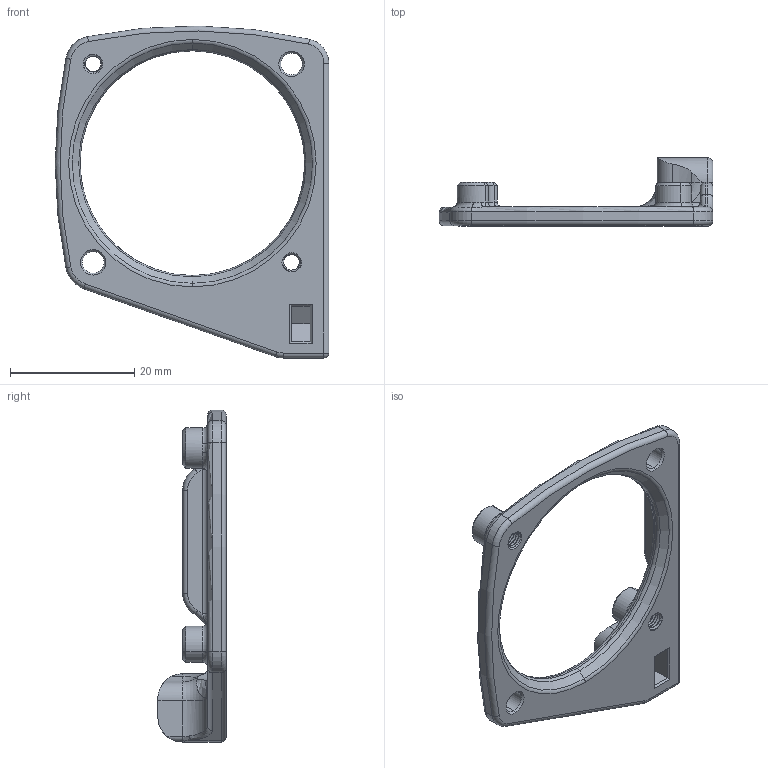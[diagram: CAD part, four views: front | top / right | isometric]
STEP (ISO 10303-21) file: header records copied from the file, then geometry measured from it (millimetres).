
FILE_DESCRIPTION(('CATIA V5 STEP Exchange'),'2;1');
FILE_NAME('E:\Dropbox\3D Printer Fan Duct Designs\1.) Artillery Sidewinder X1\3D Models\5015 Double Ducts\HEMERA MATRIX\Hemera ALL Step Files\Adapter Mounting Bracket Nut.stp','2022-01-10T00:59:46+00:00',('none'),('none'),'CATIA Version 5 Release 20 SP 1 (IN-10)','CATIA V5 STEP AP214','none');
FILE_SCHEMA(('AUTOMOTIVE_DESIGN { 1 0 10303 214 1 1 1 1 }'));
Length unit declared in the file: millimetre
Products named in the file (1): STAFFA_ADATTATORE
Bounding box: 44.13 x 11 x 53.54 mm (x, y, z)
Volume: 3655.7 mm3; surface area: 3604.3 mm2
Topology: 1 solids, 1 shells, 328 faces, 830 edges, 501 vertices
Faces by surface type: bspline 129, cylinder 100, torus 39, cone 34, plane 23, extrusion 2, sphere 1
Entity records: 13774 total; most frequent: CARTESIAN_POINT 7552, ORIENTED_EDGE 1652, EDGE_CURVE 826, DIRECTION 622, VERTEX_POINT 501, B_SPLINE_CURVE_WITH_KNOTS 474, EDGE_LOOP 341, ADVANCED_FACE 328
